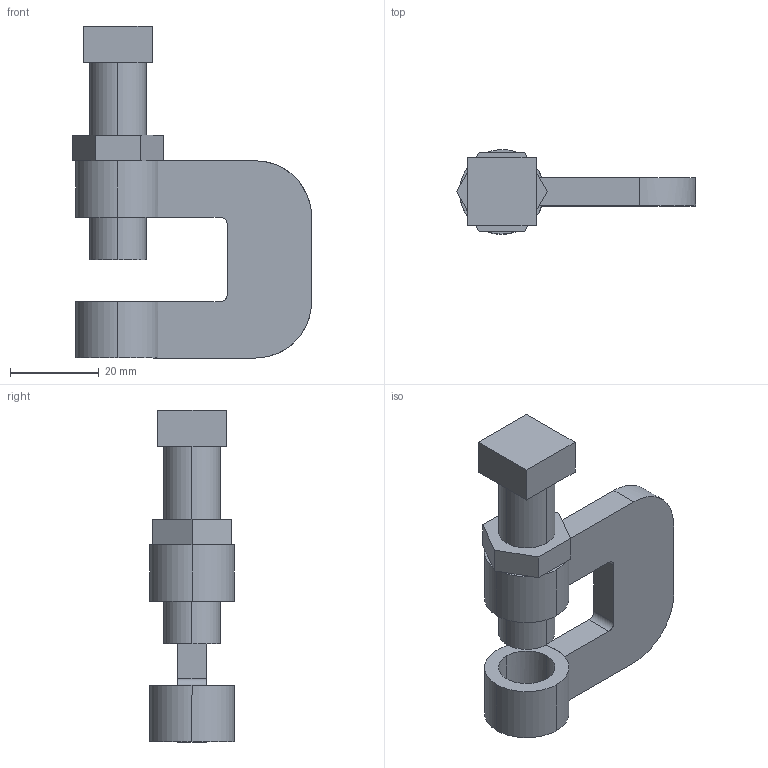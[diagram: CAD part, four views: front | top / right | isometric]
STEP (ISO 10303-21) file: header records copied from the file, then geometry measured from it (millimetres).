
FILE_DESCRIPTION(('TurboCAD Mac Pro'),'Build 980');
FILE_NAME('P2896-50.stp',' ',(''),(''),'ACIS Interop','IMSI','TurboCAD Mac Pro BY IMSI, INCORPORATED');
FILE_SCHEMA(('automotive_design'));
Length unit declared in the file: inch
Products named in the file (3): 1; 2; 3
Bounding box: 53.91 x 19.05 x 74.84 mm (x, y, z)
Volume: 19857.5 mm3; surface area: 9938.6 mm2
Topology: 3 solids, 3 shells, 57 faces, 150 edges, 100 vertices
Faces by surface type: plane 29, bspline 28
Entity records: 2442 total; most frequent: CARTESIAN_POINT 694, ORIENTED_EDGE 300, DIRECTION 154, EDGE_CURVE 150, VERTEX_POINT 100, LINE 90, VECTOR 90, EDGE_LOOP 64
